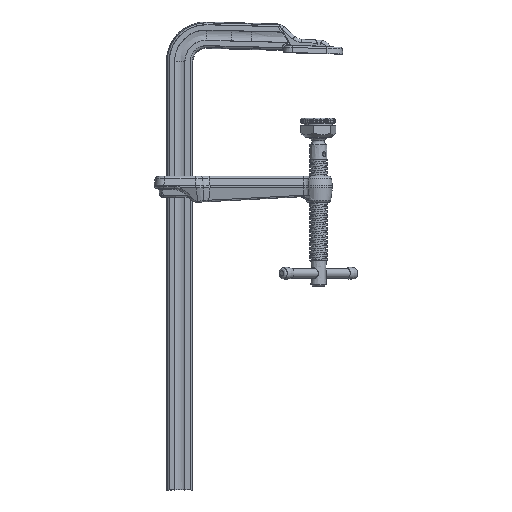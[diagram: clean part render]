
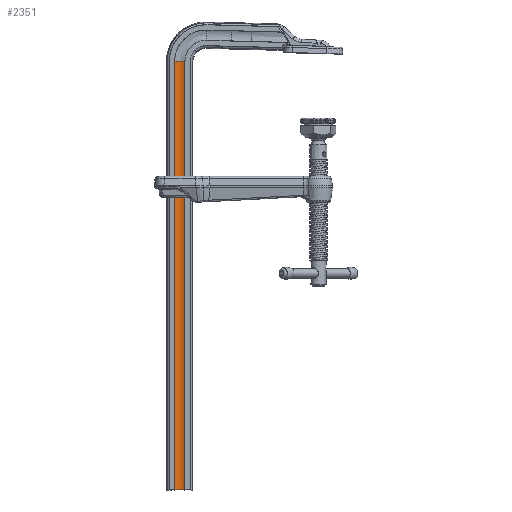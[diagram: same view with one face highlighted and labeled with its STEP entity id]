
A CAD part, front view. The second image highlights one B-rep face of the part: STEP entity #2351.
In plain terms, the highlighted free-form (B-spline) face has degree [1, 2] with [2, 3] control points.
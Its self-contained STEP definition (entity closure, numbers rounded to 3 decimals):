
#1808=CARTESIAN_POINT('',(-116.372,-7.383,-349.977));
#1809=VERTEX_POINT('',#1808);
#1817=CARTESIAN_POINT('',(-128.052,-7.383,-349.977));
#1818=VERTEX_POINT('',#1817);
#1819=CARTESIAN_POINT('',(-116.372,-7.383,-349.977));
#1820=CARTESIAN_POINT('',(-119.127,-5.995,-349.977));
#1821=CARTESIAN_POINT('',(-122.212,-5.995,-349.977));
#1822=CARTESIAN_POINT('',(-125.297,-5.995,-349.977));
#1823=CARTESIAN_POINT('',(-128.052,-7.383,-349.977));
#1824=(BOUNDED_CURVE()B_SPLINE_CURVE(2,(#1819,#1820,#1821,#1822,#1823),.UNSPECIFIED.,.F.,.U.)B_SPLINE_CURVE_WITH_KNOTS((3,2,3),(0.012,1.,1.988),.UNSPECIFIED.)CURVE()GEOMETRIC_REPRESENTATION_ITEM()RATIONAL_B_SPLINE_CURVE((0.999,0.973,1.,0.973,0.999))REPRESENTATION_ITEM(''));
#1825=EDGE_CURVE('',#1809,#1818,#1824,.T.);
#2311=CARTESIAN_POINT('',(-116.372,-7.383,144.423));
#2312=VERTEX_POINT('',#2311);
#2319=CARTESIAN_POINT('',(-116.372,-7.383,-349.977));
#2320=CARTESIAN_POINT('',(-116.372,-7.383,144.423));
#2321=(BOUNDED_CURVE()B_SPLINE_CURVE(1,(#2319,#2320),.POLYLINE_FORM.,.F.,.U.)B_SPLINE_CURVE_WITH_KNOTS((2,2),(0.,1.),.UNSPECIFIED.)CURVE()GEOMETRIC_REPRESENTATION_ITEM()RATIONAL_B_SPLINE_CURVE((0.859,0.859))REPRESENTATION_ITEM(''));
#2322=EDGE_CURVE('',#1809,#2312,#2321,.T.);
#2327=CARTESIAN_POINT('',(-128.052,-7.383,144.423));
#2328=CARTESIAN_POINT('',(-122.212,-4.44,144.423));
#2329=CARTESIAN_POINT('',(-116.372,-7.383,144.423));
#2330=CARTESIAN_POINT('',(-128.052,-7.383,-349.977));
#2331=CARTESIAN_POINT('',(-122.212,-4.44,-349.977));
#2332=CARTESIAN_POINT('',(-116.372,-7.383,-349.977));
#2333=(BOUNDED_SURFACE()B_SPLINE_SURFACE(1,2,((#2327,#2328,#2329),(#2330,#2331,#2332)),.CYLINDRICAL_SURF.,.F.,.F.,.U.)B_SPLINE_SURFACE_WITH_KNOTS((2,2),(3,3),(0.,1.),(0.001,0.148),.UNSPECIFIED.)GEOMETRIC_REPRESENTATION_ITEM()RATIONAL_B_SPLINE_SURFACE(((0.998,0.827,0.859),(0.998,0.827,0.859)))REPRESENTATION_ITEM('')SURFACE());
#2334=CARTESIAN_POINT('',(-128.052,-7.383,144.423));
#2335=VERTEX_POINT('',#2334);
#2336=CARTESIAN_POINT('',(-116.372,-7.383,144.423));
#2337=CARTESIAN_POINT('',(-122.212,-4.44,144.423));
#2338=CARTESIAN_POINT('',(-128.052,-7.383,144.423));
#2339=(BOUNDED_CURVE()B_SPLINE_CURVE(2,(#2336,#2337,#2338),.CIRCULAR_ARC.,.F.,.U.)B_SPLINE_CURVE_WITH_KNOTS((3,3),(0.001,0.148),.UNSPECIFIED.)CURVE()GEOMETRIC_REPRESENTATION_ITEM()RATIONAL_B_SPLINE_CURVE((0.859,0.827,0.998))REPRESENTATION_ITEM(''));
#2340=EDGE_CURVE('',#2312,#2335,#2339,.T.);
#2341=ORIENTED_EDGE('',*,*,#2340,.T.);
#2342=CARTESIAN_POINT('',(-128.052,-7.383,144.423));
#2343=CARTESIAN_POINT('',(-128.052,-7.383,-349.977));
#2344=(BOUNDED_CURVE()B_SPLINE_CURVE(1,(#2342,#2343),.POLYLINE_FORM.,.F.,.U.)B_SPLINE_CURVE_WITH_KNOTS((2,2),(0.,1.),.UNSPECIFIED.)CURVE()GEOMETRIC_REPRESENTATION_ITEM()RATIONAL_B_SPLINE_CURVE((0.998,0.998))REPRESENTATION_ITEM(''));
#2345=EDGE_CURVE('',#2335,#1818,#2344,.T.);
#2346=ORIENTED_EDGE('',*,*,#2345,.T.);
#2347=ORIENTED_EDGE('',*,*,#1825,.F.);
#2348=ORIENTED_EDGE('',*,*,#2322,.T.);
#2349=EDGE_LOOP('',(#2341,#2346,#2347,#2348));
#2350=FACE_OUTER_BOUND('',#2349,.T.);
#2351=ADVANCED_FACE('',(#2350),#2333,.T.);
